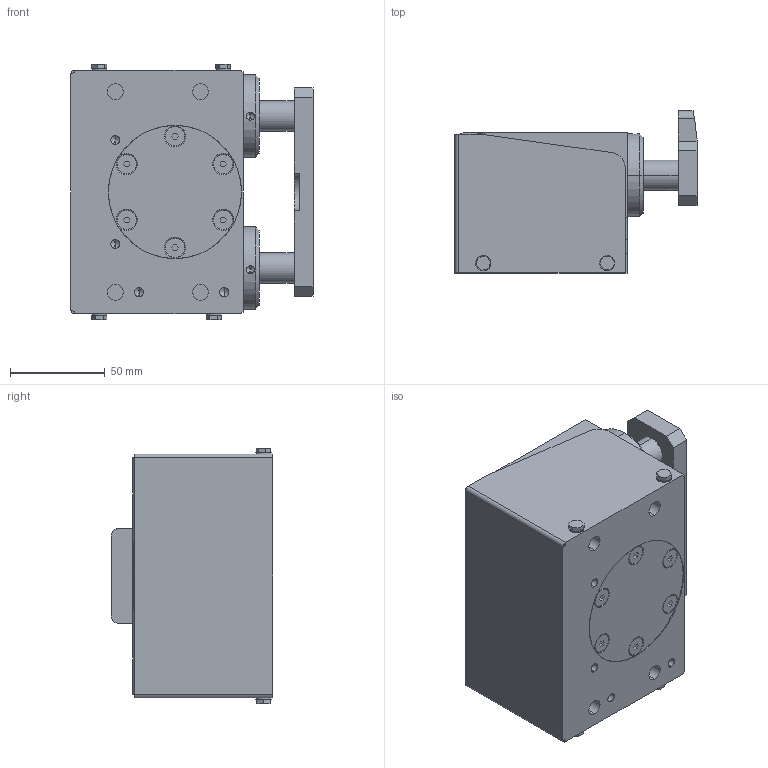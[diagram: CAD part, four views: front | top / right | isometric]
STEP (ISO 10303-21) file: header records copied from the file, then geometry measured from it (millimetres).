
FILE_DESCRIPTION (( 'STEP AP203' ), '1' );
FILE_NAME ('DBS300.STEP', '2008-09-03T09:05:31', ( '' ), ( '' ), 'SwSTEP 2.0', 'SolidWorks 2007', '' );
FILE_SCHEMA (( 'CONFIG_CONTROL_DESIGN' ));
Length unit declared in the file: millimetre
Products named in the file (1): DBS300
Bounding box: 128 x 85.55 x 134.9 mm (x, y, z)
Volume: 818142.9 mm3; surface area: 135392.1 mm2
Topology: 2 solids, 2 shells, 337 faces, 811 edges, 501 vertices
Faces by surface type: plane 211, cylinder 88, cone 38
Entity records: 9908 total; most frequent: CARTESIAN_POINT 1880, DIRECTION 1697, ORIENTED_EDGE 1586, EDGE_CURVE 793, AXIS2_PLACEMENT_3D 576, VECTOR 545, LINE 545, VERTEX_POINT 501
